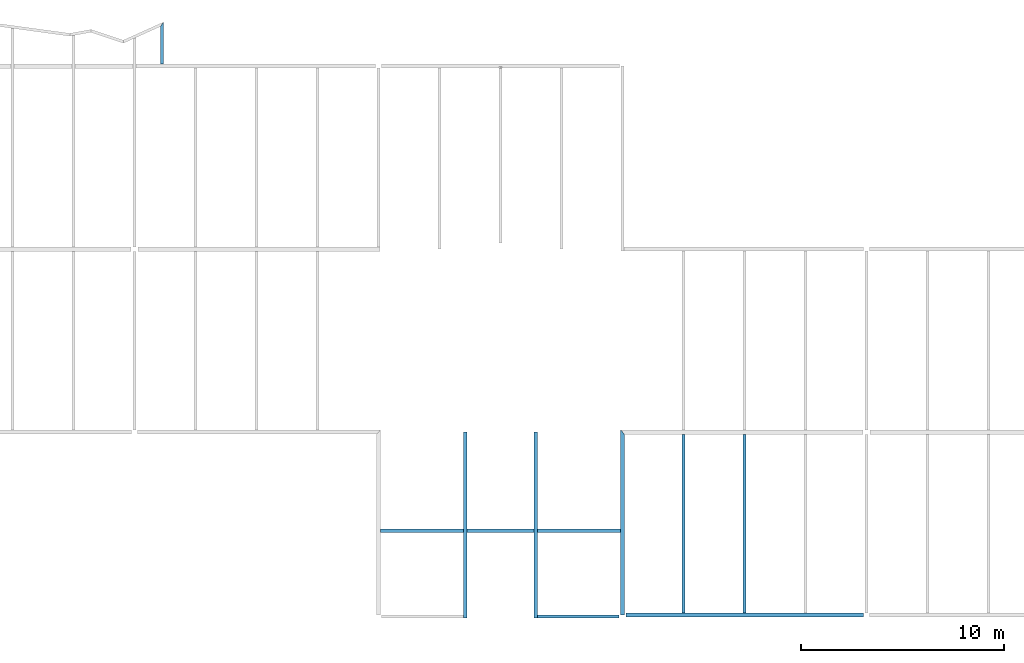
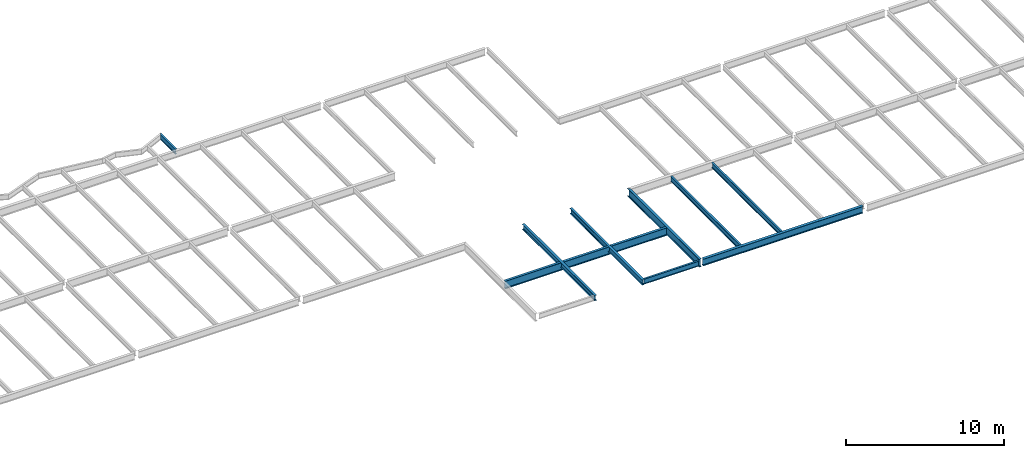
# One storey, part 10 of 21: 9 beams.
"""IFC2X3 building model written with IfcOpenShell, lengths in millimetres."""

from ifc_helpers import new_model, si_unit, origin, place, context, project, spatial, faceted_brep, material, element, save


model = new_model("IFC2X3")

# Units and contexts
context_of_model = context(None, 3, precision=1e-05, world=origin())
ifc_project = project(units=[si_unit("LENGTHUNIT", "METRE", prefix="MILLI")], contexts=[context_of_model])

# Building, storey
building = spatial("IfcBuilding", under=ifc_project, Name="Building", CompositionType="ELEMENT")
storey = spatial("IfcBuildingStorey", under=building, Name="FL3-FRM", CompositionType="ELEMENT")

# Beams
ifc_material_1 = material(Name="A992")
beam_1_placement = place(None, origin())
element("IfcBeam", 1, at=beam_1_placement, inside=storey, material=ifc_material_1, Name="B459", context=context_of_model, shape_type="Brep", body=[
    faceted_brep([(15070.0, 9104.5, 8474.0), (14930.0, 9104.5, 8474.0), (14930.0, 17885.5, 8474.0), (15070.0, 17885.5, 8474.0), (14930.0, 9104.5, 8482.8), (14930.0, 17885.5, 8482.8), (14986.6, 9104.5, 8482.8), (14986.6, 17885.5, 8482.8), (14989.2, 9104.5, 8483.15), (14989.2, 17885.5, 8483.15), (14991.7, 9104.5, 8484.17), (14991.7, 17885.5, 8484.17), (14993.8, 9104.5, 8485.79), (14993.8, 17885.5, 8485.79), (14995.4, 9104.5, 8487.9), (14995.4, 17885.5, 8487.9), (14996.5, 9104.5, 8490.36), (14996.5, 17885.5, 8490.36), (14996.8, 9104.5, 8493.0), (14996.8, 17885.5, 8493.0), (14996.8, 9104.5, 8854.0), (14996.8, 17885.5, 8854.0), (14996.5, 9104.5, 8856.64), (14996.5, 17885.5, 8856.64), (14995.4, 9104.5, 8859.1), (14995.4, 17885.5, 8859.1), (14993.8, 9104.5, 8861.21), (14993.8, 17885.5, 8861.21), (14991.7, 9104.5, 8862.83), (14991.7, 17885.5, 8862.83), (14989.2, 9104.5, 8863.85), (14989.2, 17885.5, 8863.85), (14986.6, 9104.5, 8864.2), (14986.6, 17885.5, 8864.2), (14930.0, 9104.5, 8864.2), (14930.0, 17885.5, 8864.2), (14930.0, 9104.5, 8873.0), (14930.0, 17885.5, 8873.0), (15070.0, 9104.5, 8873.0), (15070.0, 17885.5, 8873.0), (15070.0, 9104.5, 8864.2), (15070.0, 17885.5, 8864.2), (15013.4, 9104.5, 8864.2), (15013.4, 17885.5, 8864.2), (15010.8, 9104.5, 8863.85), (15010.8, 17885.5, 8863.85), (15008.3, 9104.5, 8862.83), (15008.3, 17885.5, 8862.83), (15006.2, 9104.5, 8861.21), (15006.2, 17885.5, 8861.21), (15004.6, 9104.5, 8859.1), (15004.6, 17885.5, 8859.1), (15003.5, 9104.5, 8856.64), (15003.5, 17885.5, 8856.64), (15003.2, 9104.5, 8854.0), (15003.2, 17885.5, 8854.0), (15003.2, 9104.5, 8493.0), (15003.2, 17885.5, 8493.0), (15003.5, 9104.5, 8490.36), (15003.5, 17885.5, 8490.36), (15004.6, 9104.5, 8487.9), (15004.6, 17885.5, 8487.9), (15006.2, 9104.5, 8485.79), (15006.2, 17885.5, 8485.79), (15008.3, 9104.5, 8484.17), (15008.3, 17885.5, 8484.17), (15010.8, 9104.5, 8483.15), (15010.8, 17885.5, 8483.15), (15013.4, 9104.5, 8482.8), (15013.4, 17885.5, 8482.8), (15070.0, 9104.5, 8482.8), (15070.0, 17885.5, 8482.8)], [[[0, 1, 2, 3]], [[1, 4, 5, 2]], [[4, 6, 7, 5]], [[6, 8, 9, 7]], [[8, 10, 11, 9]], [[10, 12, 13, 11]], [[12, 14, 15, 13]], [[14, 16, 17, 15]], [[16, 18, 19, 17]], [[18, 20, 21, 19]], [[20, 22, 23, 21]], [[22, 24, 25, 23]], [[24, 26, 27, 25]], [[26, 28, 29, 27]], [[28, 30, 31, 29]], [[30, 32, 33, 31]], [[32, 34, 35, 33]], [[34, 36, 37, 35]], [[36, 38, 39, 37]], [[38, 40, 41, 39]], [[40, 42, 43, 41]], [[42, 44, 45, 43]], [[44, 46, 47, 45]], [[46, 48, 49, 47]], [[48, 50, 51, 49]], [[50, 52, 53, 51]], [[52, 54, 55, 53]], [[54, 56, 57, 55]], [[56, 58, 59, 57]], [[58, 60, 61, 59]], [[60, 62, 63, 61]], [[62, 64, 65, 63]], [[64, 66, 67, 65]], [[66, 68, 69, 67]], [[68, 70, 71, 69]], [[70, 0, 3, 71]], [[0, 70, 68, 66, 64, 62, 60, 58, 56, 54, 52, 50, 48, 46, 44, 42, 40, 38, 36, 34, 32, 30, 28, 26, 24, 22, 20, 18, 16, 14, 12, 10, 8, 6, 4, 1]], [[3, 2, 5, 7, 9, 11, 13, 15, 17, 19, 21, 23, 25, 27, 29, 31, 33, 35, 37, 39, 41, 43, 45, 47, 49, 51, 53, 55, 57, 59, 61, 63, 65, 67, 69, 71]]]),
])
ifc_material_2 = material(Name="A992")
beam_2_placement = place(None, origin())
element("IfcBeam", 2, at=beam_2_placement, inside=storey, material=ifc_material_2, Name="B460", context=context_of_model, shape_type="Brep", body=[
    faceted_brep([(18070.0, 9104.5, 8474.0), (17930.0, 9104.5, 8474.0), (17930.0, 17885.5, 8474.0), (18070.0, 17885.5, 8474.0), (17930.0, 9104.5, 8482.8), (17930.0, 17885.5, 8482.8), (17986.6, 9104.5, 8482.8), (17986.6, 17885.5, 8482.8), (17989.2, 9104.5, 8483.15), (17989.2, 17885.5, 8483.15), (17991.7, 9104.5, 8484.17), (17991.7, 17885.5, 8484.17), (17993.8, 9104.5, 8485.79), (17993.8, 17885.5, 8485.79), (17995.4, 9104.5, 8487.9), (17995.4, 17885.5, 8487.9), (17996.5, 9104.5, 8490.36), (17996.5, 17885.5, 8490.36), (17996.8, 9104.5, 8493.0), (17996.8, 17885.5, 8493.0), (17996.8, 9104.5, 8854.0), (17996.8, 17885.5, 8854.0), (17996.5, 9104.5, 8856.64), (17996.5, 17885.5, 8856.64), (17995.4, 9104.5, 8859.1), (17995.4, 17885.5, 8859.1), (17993.8, 9104.5, 8861.21), (17993.8, 17885.5, 8861.21), (17991.7, 9104.5, 8862.83), (17991.7, 17885.5, 8862.83), (17989.2, 9104.5, 8863.85), (17989.2, 17885.5, 8863.85), (17986.6, 9104.5, 8864.2), (17986.6, 17885.5, 8864.2), (17930.0, 9104.5, 8864.2), (17930.0, 17885.5, 8864.2), (17930.0, 9104.5, 8873.0), (17930.0, 17885.5, 8873.0), (18070.0, 9104.5, 8873.0), (18070.0, 17885.5, 8873.0), (18070.0, 9104.5, 8864.2), (18070.0, 17885.5, 8864.2), (18013.4, 9104.5, 8864.2), (18013.4, 17885.5, 8864.2), (18010.8, 9104.5, 8863.85), (18010.8, 17885.5, 8863.85), (18008.3, 9104.5, 8862.83), (18008.3, 17885.5, 8862.83), (18006.2, 9104.5, 8861.21), (18006.2, 17885.5, 8861.21), (18004.6, 9104.5, 8859.1), (18004.6, 17885.5, 8859.1), (18003.5, 9104.5, 8856.64), (18003.5, 17885.5, 8856.64), (18003.2, 9104.5, 8854.0), (18003.2, 17885.5, 8854.0), (18003.2, 9104.5, 8493.0), (18003.2, 17885.5, 8493.0), (18003.5, 9104.5, 8490.36), (18003.5, 17885.5, 8490.36), (18004.6, 9104.5, 8487.9), (18004.6, 17885.5, 8487.9), (18006.2, 9104.5, 8485.79), (18006.2, 17885.5, 8485.79), (18008.3, 9104.5, 8484.17), (18008.3, 17885.5, 8484.17), (18010.8, 9104.5, 8483.15), (18010.8, 17885.5, 8483.15), (18013.4, 9104.5, 8482.8), (18013.4, 17885.5, 8482.8), (18070.0, 9104.5, 8482.8), (18070.0, 17885.5, 8482.8)], [[[0, 1, 2, 3]], [[1, 4, 5, 2]], [[4, 6, 7, 5]], [[6, 8, 9, 7]], [[8, 10, 11, 9]], [[10, 12, 13, 11]], [[12, 14, 15, 13]], [[14, 16, 17, 15]], [[16, 18, 19, 17]], [[18, 20, 21, 19]], [[20, 22, 23, 21]], [[22, 24, 25, 23]], [[24, 26, 27, 25]], [[26, 28, 29, 27]], [[28, 30, 31, 29]], [[30, 32, 33, 31]], [[32, 34, 35, 33]], [[34, 36, 37, 35]], [[36, 38, 39, 37]], [[38, 40, 41, 39]], [[40, 42, 43, 41]], [[42, 44, 45, 43]], [[44, 46, 47, 45]], [[46, 48, 49, 47]], [[48, 50, 51, 49]], [[50, 52, 53, 51]], [[52, 54, 55, 53]], [[54, 56, 57, 55]], [[56, 58, 59, 57]], [[58, 60, 61, 59]], [[60, 62, 63, 61]], [[62, 64, 65, 63]], [[64, 66, 67, 65]], [[66, 68, 69, 67]], [[68, 70, 71, 69]], [[70, 0, 3, 71]], [[0, 70, 68, 66, 64, 62, 60, 58, 56, 54, 52, 50, 48, 46, 44, 42, 40, 38, 36, 34, 32, 30, 28, 26, 24, 22, 20, 18, 16, 14, 12, 10, 8, 6, 4, 1]], [[3, 2, 5, 7, 9, 11, 13, 15, 17, 19, 21, 23, 25, 27, 29, 31, 33, 35, 37, 39, 41, 43, 45, 47, 49, 51, 53, 55, 57, 59, 61, 63, 65, 67, 69, 71]]]),
])
ifc_material_3 = material(Name="A992")
beam_3_placement = place(None, origin())
element("IfcBeam", 3, at=beam_3_placement, inside=storey, material=ifc_material_3, Name="B462", context=context_of_model, shape_type="Brep", body=[
    faceted_brep([(12089.5, 9009.0, 8270.0), (11910.5, 9009.0, 8270.0), (11910.5, 18114.5, 8270.0), (12089.5, 17885.5, 8270.0), (11910.5, 9009.0, 8285.0), (11910.5, 18114.5, 8285.0), (11979.4, 9009.0, 8285.0), (11979.4, 18026.4, 8285.0), (11981.7, 9009.0, 8285.19), (11981.7, 18023.4, 8285.14), (11984.0, 9009.0, 8285.74), (11984.0, 18020.4, 8285.71), (11986.3, 9009.0, 8286.66), (11986.2, 18017.7, 8286.64), (11988.3, 9009.0, 8287.9), (11988.2, 18015.1, 8287.82), (11990.1, 9009.0, 8289.45), (11990.1, 18012.7, 8289.45), (11991.6, 9009.0, 8291.27), (11991.6, 18010.8, 8291.17), (11992.9, 9009.0, 8293.3), (11992.9, 18009.1, 8293.2), (11993.8, 9009.0, 8295.5), (11993.8, 18008.0, 8295.47), (11994.4, 9009.0, 8297.82), (11994.3, 18007.3, 8297.77), (11994.6, 9009.0, 8300.2), (11994.6, 18007.0, 8300.2), (11994.6, 9009.0, 8842.8), (11994.6, 18007.0, 8842.8), (11994.4, 9009.0, 8845.18), (11994.3, 18007.3, 8845.23), (11993.8, 9009.0, 8847.5), (11993.8, 18008.0, 8847.53), (11992.9, 9009.0, 8849.7), (11992.9, 18009.1, 8849.8), (11991.6, 9009.0, 8851.73), (11991.6, 18010.8, 8851.83), (11990.1, 9009.0, 8853.55), (11990.1, 18012.7, 8853.55), (11988.3, 9009.0, 8855.1), (11988.2, 18015.1, 8855.18), (11986.3, 9009.0, 8856.34), (11986.2, 18017.7, 8856.36), (11984.0, 9009.0, 8857.26), (11984.0, 18020.4, 8857.29), (11981.7, 9009.0, 8857.81), (11981.7, 18023.4, 8857.86), (11979.4, 9009.0, 8858.0), (11979.4, 18026.4, 8858.0), (11910.5, 9009.0, 8858.0), (11910.5, 18114.5, 8858.0), (11910.5, 9009.0, 8873.0), (11910.5, 18114.5, 8873.0), (12089.5, 9009.0, 8873.0), (12089.5, 17885.5, 8873.0), (12089.5, 9009.0, 8858.0), (12089.5, 17885.5, 8858.0), (12020.6, 9009.0, 8858.0), (12020.6, 17973.6, 8858.0), (12018.3, 9009.0, 8857.81), (12018.3, 17976.6, 8857.86), (12016.0, 9009.0, 8857.26), (12016.0, 17979.6, 8857.29), (12013.7, 9009.0, 8856.34), (12013.8, 17982.3, 8856.36), (12011.7, 9009.0, 8855.1), (12011.8, 17984.9, 8855.18), (12009.9, 9009.0, 8853.55), (12009.9, 17987.3, 8853.55), (12008.4, 9009.0, 8851.73), (12008.4, 17989.2, 8851.83), (12007.1, 9009.0, 8849.7), (12007.1, 17990.9, 8849.8), (12006.2, 9009.0, 8847.5), (12006.2, 17992.0, 8847.53), (12005.6, 9009.0, 8845.18), (12005.7, 17992.7, 8845.23), (12005.4, 9009.0, 8842.8), (12005.4, 17993.0, 8842.8), (12005.4, 9009.0, 8300.2), (12005.4, 17993.0, 8300.2), (12005.6, 9009.0, 8297.82), (12005.7, 17992.7, 8297.77), (12006.2, 9009.0, 8295.5), (12006.2, 17992.0, 8295.47), (12007.1, 9009.0, 8293.3), (12007.1, 17990.9, 8293.2), (12008.4, 9009.0, 8291.27), (12008.4, 17989.2, 8291.17), (12009.9, 9009.0, 8289.45), (12009.9, 17987.3, 8289.45), (12011.7, 9009.0, 8287.9), (12011.8, 17984.9, 8287.82), (12013.7, 9009.0, 8286.66), (12013.8, 17982.3, 8286.64), (12016.0, 9009.0, 8285.74), (12016.0, 17979.6, 8285.71), (12018.3, 9009.0, 8285.19), (12018.3, 17976.6, 8285.14), (12020.6, 9009.0, 8285.0), (12020.6, 17973.6, 8285.0), (12089.5, 9009.0, 8285.0), (12089.5, 17885.5, 8285.0)], [[[0, 1, 2, 3]], [[1, 4, 5, 2]], [[4, 6, 7, 5]], [[6, 8, 9, 7]], [[8, 10, 11, 9]], [[10, 12, 13, 11]], [[12, 14, 15, 13]], [[14, 16, 17, 15]], [[16, 18, 19, 17]], [[18, 20, 21, 19]], [[20, 22, 23, 21]], [[22, 24, 25, 23]], [[24, 26, 27, 25]], [[26, 28, 29, 27]], [[28, 30, 31, 29]], [[30, 32, 33, 31]], [[32, 34, 35, 33]], [[34, 36, 37, 35]], [[36, 38, 39, 37]], [[38, 40, 41, 39]], [[40, 42, 43, 41]], [[42, 44, 45, 43]], [[44, 46, 47, 45]], [[46, 48, 49, 47]], [[48, 50, 51, 49]], [[50, 52, 53, 51]], [[52, 54, 55, 53]], [[54, 56, 57, 55]], [[56, 58, 59, 57]], [[58, 60, 61, 59]], [[60, 62, 63, 61]], [[62, 64, 65, 63]], [[64, 66, 67, 65]], [[66, 68, 69, 67]], [[68, 70, 71, 69]], [[70, 72, 73, 71]], [[72, 74, 75, 73]], [[74, 76, 77, 75]], [[76, 78, 79, 77]], [[78, 80, 81, 79]], [[80, 82, 83, 81]], [[82, 84, 85, 83]], [[84, 86, 87, 85]], [[86, 88, 89, 87]], [[88, 90, 91, 89]], [[90, 92, 93, 91]], [[92, 94, 95, 93]], [[94, 96, 97, 95]], [[96, 98, 99, 97]], [[98, 100, 101, 99]], [[100, 102, 103, 101]], [[102, 0, 3, 103]], [[0, 102, 100, 98, 96, 94, 92, 90, 88, 86, 84, 82, 80, 78, 76, 74, 72, 70, 68, 66, 64, 62, 60, 58, 56, 54, 52, 50, 48, 46, 44, 42, 40, 38, 36, 34, 32, 30, 28, 26, 24, 22, 20, 18, 16, 14, 12, 10, 8, 6, 4, 1]], [[3, 2, 5, 7, 9, 11, 13, 15, 17, 19, 21, 23, 25, 27, 29, 31, 33, 35, 37, 39, 41, 43, 45, 47, 49, 51, 53, 55, 57, 59, 61, 63, 65, 67, 69, 71, 73, 75, 77, 79, 81, 83, 85, 87, 89, 91, 93, 95, 97, 99, 101, 103]]]),
])
ifc_material_4 = material(Name="A992")
beam_4_placement = place(None, origin())
element("IfcBeam", 4, at=beam_4_placement, inside=storey, material=ifc_material_4, Name="Column474", context=context_of_model, shape_type="Brep", body=[
    faceted_brep([(12166.5, 8895.5, 8345.0), (12166.5, 9104.5, 8345.0), (23846.0, 9104.5, 8345.0), (23846.0, 8895.5, 8345.0), (12166.5, 9104.5, 8358.3), (23846.0, 9104.5, 8358.3), (12166.5, 9017.45, 8358.3), (23846.0, 9017.45, 8358.3), (12166.5, 9014.16, 8358.73), (23846.0, 9014.16, 8358.73), (12166.5, 9011.1, 8360.0), (23846.0, 9011.1, 8360.0), (12166.5, 9008.47, 8362.02), (23846.0, 9008.47, 8362.02), (12166.5, 9006.45, 8364.65), (23846.0, 9006.45, 8364.65), (12166.5, 9005.18, 8367.71), (23846.0, 9005.18, 8367.71), (12166.5, 9004.75, 8371.0), (23846.0, 9004.75, 8371.0), (12166.5, 9004.75, 8847.0), (23846.0, 9004.75, 8847.0), (12166.5, 9005.18, 8850.29), (23846.0, 9005.18, 8850.29), (12166.5, 9006.45, 8853.35), (23846.0, 9006.45, 8853.35), (12166.5, 9008.47, 8855.98), (23846.0, 9008.47, 8855.98), (12166.5, 9011.1, 8858.0), (23846.0, 9011.1, 8858.0), (12166.5, 9014.16, 8859.27), (23846.0, 9014.16, 8859.27), (12166.5, 9017.45, 8859.7), (23846.0, 9017.45, 8859.7), (12166.5, 9104.5, 8859.7), (23846.0, 9104.5, 8859.7), (12166.5, 9104.5, 8873.0), (23846.0, 9104.5, 8873.0), (12166.5, 8895.5, 8873.0), (23846.0, 8895.5, 8873.0), (12166.5, 8895.5, 8859.7), (23846.0, 8895.5, 8859.7), (12166.5, 8982.55, 8859.7), (23846.0, 8982.55, 8859.7), (12166.5, 8985.84, 8859.27), (23846.0, 8985.84, 8859.27), (12166.5, 8988.9, 8858.0), (23846.0, 8988.9, 8858.0), (12166.5, 8991.53, 8855.98), (23846.0, 8991.53, 8855.98), (12166.5, 8993.55, 8853.35), (23846.0, 8993.55, 8853.35), (12166.5, 8994.82, 8850.29), (23846.0, 8994.82, 8850.29), (12166.5, 8995.25, 8847.0), (23846.0, 8995.25, 8847.0), (12166.5, 8995.25, 8371.0), (23846.0, 8995.25, 8371.0), (12166.5, 8994.82, 8367.71), (23846.0, 8994.82, 8367.71), (12166.5, 8993.55, 8364.65), (23846.0, 8993.55, 8364.65), (12166.5, 8991.53, 8362.02), (23846.0, 8991.53, 8362.02), (12166.5, 8988.9, 8360.0), (23846.0, 8988.9, 8360.0), (12166.5, 8985.84, 8358.73), (23846.0, 8985.84, 8358.73), (12166.5, 8982.55, 8358.3), (23846.0, 8982.55, 8358.3), (12166.5, 8895.5, 8358.3), (23846.0, 8895.5, 8358.3)], [[[0, 1, 2, 3]], [[1, 4, 5, 2]], [[4, 6, 7, 5]], [[6, 8, 9, 7]], [[8, 10, 11, 9]], [[10, 12, 13, 11]], [[12, 14, 15, 13]], [[14, 16, 17, 15]], [[16, 18, 19, 17]], [[18, 20, 21, 19]], [[20, 22, 23, 21]], [[22, 24, 25, 23]], [[24, 26, 27, 25]], [[26, 28, 29, 27]], [[28, 30, 31, 29]], [[30, 32, 33, 31]], [[32, 34, 35, 33]], [[34, 36, 37, 35]], [[36, 38, 39, 37]], [[38, 40, 41, 39]], [[40, 42, 43, 41]], [[42, 44, 45, 43]], [[44, 46, 47, 45]], [[46, 48, 49, 47]], [[48, 50, 51, 49]], [[50, 52, 53, 51]], [[52, 54, 55, 53]], [[54, 56, 57, 55]], [[56, 58, 59, 57]], [[58, 60, 61, 59]], [[60, 62, 63, 61]], [[62, 64, 65, 63]], [[64, 66, 67, 65]], [[66, 68, 69, 67]], [[68, 70, 71, 69]], [[70, 0, 3, 71]], [[0, 70, 68, 66, 64, 62, 60, 58, 56, 54, 52, 50, 48, 46, 44, 42, 40, 38, 36, 34, 32, 30, 28, 26, 24, 22, 20, 18, 16, 14, 12, 10, 8, 6, 4, 1]], [[3, 2, 5, 7, 9, 11, 13, 15, 17, 19, 21, 23, 25, 27, 29, 31, 33, 35, 37, 39, 41, 43, 45, 47, 49, 51, 53, 55, 57, 59, 61, 63, 65, 67, 69, 71]]]),
])
ifc_material_5 = material(Name="A992")
beam_5_placement = place(None, origin())
element("IfcBeam", 5, at=beam_5_placement, inside=storey, material=ifc_material_5, Name="B595", context=context_of_model, shape_type="Brep", body=[
    faceted_brep([(4351.0, 8851.2, 8466.0), (4173.0, 8851.2, 8466.0), (4173.0, 18000.0, 8466.0), (4351.0, 18000.0, 8466.0), (4173.0, 8851.2, 8478.8), (4173.0, 18000.0, 8478.8), (4247.95, 8851.2, 8478.8), (4247.95, 18000.0, 8478.8), (4250.59, 8851.2, 8479.15), (4250.59, 18000.0, 8479.15), (4253.05, 8851.2, 8480.17), (4253.05, 18000.0, 8480.17), (4255.16, 8851.2, 8481.79), (4255.16, 18000.0, 8481.79), (4256.78, 8851.2, 8483.9), (4256.78, 18000.0, 8483.9), (4257.8, 8851.2, 8486.36), (4257.8, 18000.0, 8486.36), (4258.15, 8851.2, 8489.0), (4258.15, 18000.0, 8489.0), (4258.15, 8851.2, 8850.0), (4258.15, 18000.0, 8850.0), (4257.8, 8851.2, 8852.64), (4257.8, 18000.0, 8852.64), (4256.78, 8851.2, 8855.1), (4256.78, 18000.0, 8855.1), (4255.16, 8851.2, 8857.21), (4255.16, 18000.0, 8857.21), (4253.05, 8851.2, 8858.83), (4253.05, 18000.0, 8858.83), (4250.59, 8851.2, 8859.85), (4250.59, 18000.0, 8859.85), (4247.95, 8851.2, 8860.2), (4247.95, 18000.0, 8860.2), (4173.0, 8851.2, 8860.2), (4173.0, 18000.0, 8860.2), (4173.0, 8851.2, 8873.0), (4173.0, 18000.0, 8873.0), (4351.0, 8851.2, 8873.0), (4351.0, 18000.0, 8873.0), (4351.0, 8851.2, 8860.2), (4351.0, 18000.0, 8860.2), (4276.05, 8851.2, 8860.2), (4276.05, 18000.0, 8860.2), (4273.41, 8851.2, 8859.85), (4273.41, 18000.0, 8859.85), (4270.95, 8851.2, 8858.83), (4270.95, 18000.0, 8858.83), (4268.84, 8851.2, 8857.21), (4268.84, 18000.0, 8857.21), (4267.22, 8851.2, 8855.1), (4267.22, 18000.0, 8855.1), (4266.2, 8851.2, 8852.64), (4266.2, 18000.0, 8852.64), (4265.85, 8851.2, 8850.0), (4265.85, 18000.0, 8850.0), (4265.85, 8851.2, 8489.0), (4265.85, 18000.0, 8489.0), (4266.2, 8851.2, 8486.36), (4266.2, 18000.0, 8486.36), (4267.22, 8851.2, 8483.9), (4267.22, 18000.0, 8483.9), (4268.84, 8851.2, 8481.79), (4268.84, 18000.0, 8481.79), (4270.95, 8851.2, 8480.17), (4270.95, 18000.0, 8480.17), (4273.41, 8851.2, 8479.15), (4273.41, 18000.0, 8479.15), (4276.05, 8851.2, 8478.8), (4276.05, 18000.0, 8478.8), (4351.0, 8851.2, 8478.8), (4351.0, 18000.0, 8478.8)], [[[0, 1, 2, 3]], [[1, 4, 5, 2]], [[4, 6, 7, 5]], [[6, 8, 9, 7]], [[8, 10, 11, 9]], [[10, 12, 13, 11]], [[12, 14, 15, 13]], [[14, 16, 17, 15]], [[16, 18, 19, 17]], [[18, 20, 21, 19]], [[20, 22, 23, 21]], [[22, 24, 25, 23]], [[24, 26, 27, 25]], [[26, 28, 29, 27]], [[28, 30, 31, 29]], [[30, 32, 33, 31]], [[32, 34, 35, 33]], [[34, 36, 37, 35]], [[36, 38, 39, 37]], [[38, 40, 41, 39]], [[40, 42, 43, 41]], [[42, 44, 45, 43]], [[44, 46, 47, 45]], [[46, 48, 49, 47]], [[48, 50, 51, 49]], [[50, 52, 53, 51]], [[52, 54, 55, 53]], [[54, 56, 57, 55]], [[56, 58, 59, 57]], [[58, 60, 61, 59]], [[60, 62, 63, 61]], [[62, 64, 65, 63]], [[64, 66, 67, 65]], [[66, 68, 69, 67]], [[68, 70, 71, 69]], [[70, 0, 3, 71]], [[0, 70, 68, 66, 64, 62, 60, 58, 56, 54, 52, 50, 48, 46, 44, 42, 40, 38, 36, 34, 32, 30, 28, 26, 24, 22, 20, 18, 16, 14, 12, 10, 8, 6, 4, 1]], [[3, 2, 5, 7, 9, 11, 13, 15, 17, 19, 21, 23, 25, 27, 29, 31, 33, 35, 37, 39, 41, 43, 45, 47, 49, 51, 53, 55, 57, 59, 61, 63, 65, 67, 69, 71]]]),
])
ifc_material_6 = material(Name="A992")
beam_6_placement = place(None, origin())
element("IfcBeam", 6, at=beam_6_placement, inside=storey, material=ifc_material_6, Name="B596", context=context_of_model, shape_type="Brep", body=[
    faceted_brep([(7827.0, 8851.2, 8466.0), (7649.0, 8851.2, 8466.0), (7649.0, 18000.0, 8466.0), (7827.0, 18000.0, 8466.0), (7649.0, 8851.2, 8478.8), (7649.0, 18000.0, 8478.8), (7723.95, 8851.2, 8478.8), (7723.95, 18000.0, 8478.8), (7726.59, 8851.2, 8479.15), (7726.59, 18000.0, 8479.15), (7729.05, 8851.2, 8480.17), (7729.05, 18000.0, 8480.17), (7731.16, 8851.2, 8481.79), (7731.16, 18000.0, 8481.79), (7732.78, 8851.2, 8483.9), (7732.78, 18000.0, 8483.9), (7733.8, 8851.2, 8486.36), (7733.8, 18000.0, 8486.36), (7734.15, 8851.2, 8489.0), (7734.15, 18000.0, 8489.0), (7734.15, 8851.2, 8850.0), (7734.15, 18000.0, 8850.0), (7733.8, 8851.2, 8852.64), (7733.8, 18000.0, 8852.64), (7732.78, 8851.2, 8855.1), (7732.78, 18000.0, 8855.1), (7731.16, 8851.2, 8857.21), (7731.16, 18000.0, 8857.21), (7729.05, 8851.2, 8858.83), (7729.05, 18000.0, 8858.83), (7726.59, 8851.2, 8859.85), (7726.59, 18000.0, 8859.85), (7723.95, 8851.2, 8860.2), (7723.95, 18000.0, 8860.2), (7649.0, 8851.2, 8860.2), (7649.0, 18000.0, 8860.2), (7649.0, 8851.2, 8873.0), (7649.0, 18000.0, 8873.0), (7827.0, 8851.2, 8873.0), (7827.0, 18000.0, 8873.0), (7827.0, 8851.2, 8860.2), (7827.0, 18000.0, 8860.2), (7752.05, 8851.2, 8860.2), (7752.05, 18000.0, 8860.2), (7749.41, 8851.2, 8859.85), (7749.41, 18000.0, 8859.85), (7746.95, 8851.2, 8858.83), (7746.95, 18000.0, 8858.83), (7744.84, 8851.2, 8857.21), (7744.84, 18000.0, 8857.21), (7743.22, 8851.2, 8855.1), (7743.22, 18000.0, 8855.1), (7742.2, 8851.2, 8852.64), (7742.2, 18000.0, 8852.64), (7741.85, 8851.2, 8850.0), (7741.85, 18000.0, 8850.0), (7741.85, 8851.2, 8489.0), (7741.85, 18000.0, 8489.0), (7742.2, 8851.2, 8486.36), (7742.2, 18000.0, 8486.36), (7743.22, 8851.2, 8483.9), (7743.22, 18000.0, 8483.9), (7744.84, 8851.2, 8481.79), (7744.84, 18000.0, 8481.79), (7746.95, 8851.2, 8480.17), (7746.95, 18000.0, 8480.17), (7749.41, 8851.2, 8479.15), (7749.41, 18000.0, 8479.15), (7752.05, 8851.2, 8478.8), (7752.05, 18000.0, 8478.8), (7827.0, 8851.2, 8478.8), (7827.0, 18000.0, 8478.8)], [[[0, 1, 2, 3]], [[1, 4, 5, 2]], [[4, 6, 7, 5]], [[6, 8, 9, 7]], [[8, 10, 11, 9]], [[10, 12, 13, 11]], [[12, 14, 15, 13]], [[14, 16, 17, 15]], [[16, 18, 19, 17]], [[18, 20, 21, 19]], [[20, 22, 23, 21]], [[22, 24, 25, 23]], [[24, 26, 27, 25]], [[26, 28, 29, 27]], [[28, 30, 31, 29]], [[30, 32, 33, 31]], [[32, 34, 35, 33]], [[34, 36, 37, 35]], [[36, 38, 39, 37]], [[38, 40, 41, 39]], [[40, 42, 43, 41]], [[42, 44, 45, 43]], [[44, 46, 47, 45]], [[46, 48, 49, 47]], [[48, 50, 51, 49]], [[50, 52, 53, 51]], [[52, 54, 55, 53]], [[54, 56, 57, 55]], [[56, 58, 59, 57]], [[58, 60, 61, 59]], [[60, 62, 63, 61]], [[62, 64, 65, 63]], [[64, 66, 67, 65]], [[66, 68, 69, 67]], [[68, 70, 71, 69]], [[70, 0, 3, 71]], [[0, 70, 68, 66, 64, 62, 60, 58, 56, 54, 52, 50, 48, 46, 44, 42, 40, 38, 36, 34, 32, 30, 28, 26, 24, 22, 20, 18, 16, 14, 12, 10, 8, 6, 4, 1]], [[3, 2, 5, 7, 9, 11, 13, 15, 17, 19, 21, 23, 25, 27, 29, 31, 33, 35, 37, 39, 41, 43, 45, 47, 49, 51, 53, 55, 57, 59, 61, 63, 65, 67, 69, 71]]]),
])
ifc_material_7 = material(Name="A992")
beam_7_placement = place(None, origin())
element("IfcBeam", 7, at=beam_7_placement, inside=storey, material=ifc_material_7, Name="B1065", context=context_of_model, shape_type="Brep", body=[
    faceted_brep([(-10720.0, 37949.8, 8474.0), (-10580.0, 38166.6, 8474.0), (-10580.0, 36104.5, 8474.0), (-10720.0, 36104.5, 8474.0), (-10580.0, 38166.6, 8482.8), (-10580.0, 36104.5, 8482.8), (-10636.6, 38079.0, 8482.8), (-10636.6, 36104.5, 8482.8), (-10638.0, 38076.8, 8482.87), (-10638.1, 36104.5, 8482.9), (-10639.5, 38074.6, 8483.18), (-10639.5, 36104.5, 8483.21), (-10640.8, 38072.4, 8483.72), (-10640.8, 36104.5, 8483.72), (-10642.1, 38070.5, 8484.36), (-10642.1, 36104.5, 8484.42), (-10643.2, 38068.7, 8485.23), (-10643.3, 36104.5, 8485.29), (-10644.3, 38067.1, 8486.28), (-10644.3, 36104.5, 8486.32), (-10645.1, 38065.8, 8487.37), (-10645.2, 36104.5, 8487.49), (-10645.9, 38064.6, 8488.71), (-10645.9, 36104.5, 8488.76), (-10646.3, 38063.9, 8490.09), (-10646.4, 36104.5, 8490.13), (-10646.6, 38063.4, 8491.51), (-10646.7, 36104.5, 8491.55), (-10646.8, 38063.2, 8493.0), (-10646.8, 36104.5, 8493.0), (-10646.8, 38063.2, 8854.0), (-10646.8, 36104.5, 8854.0), (-10646.6, 38063.4, 8855.49), (-10646.7, 36104.5, 8855.45), (-10646.3, 38063.9, 8856.91), (-10646.4, 36104.5, 8856.87), (-10645.9, 38064.6, 8858.29), (-10645.9, 36104.5, 8858.24), (-10645.1, 38065.8, 8859.63), (-10645.2, 36104.5, 8859.51), (-10644.3, 38067.1, 8860.72), (-10644.3, 36104.5, 8860.68), (-10643.2, 38068.7, 8861.77), (-10643.3, 36104.5, 8861.71), (-10642.1, 38070.5, 8862.64), (-10642.1, 36104.5, 8862.58), (-10640.8, 38072.4, 8863.28), (-10640.8, 36104.5, 8863.28), (-10639.5, 38074.6, 8863.82), (-10639.5, 36104.5, 8863.79), (-10638.0, 38076.8, 8864.13), (-10638.1, 36104.5, 8864.1), (-10636.6, 38079.0, 8864.2), (-10636.6, 36104.5, 8864.2), (-10580.0, 38166.6, 8864.2), (-10580.0, 36104.5, 8864.2), (-10580.0, 38166.6, 8873.0), (-10580.0, 36104.5, 8873.0), (-10720.0, 37949.8, 8873.0), (-10720.0, 36104.5, 8873.0), (-10720.0, 37949.8, 8864.2), (-10720.0, 36104.5, 8864.2), (-10663.4, 38037.5, 8864.2), (-10663.4, 36104.5, 8864.2), (-10662.0, 38039.7, 8864.13), (-10661.9, 36104.5, 8864.1), (-10660.5, 38041.9, 8863.82), (-10660.5, 36104.5, 8863.79), (-10659.2, 38044.0, 8863.28), (-10659.2, 36104.5, 8863.28), (-10657.9, 38045.9, 8862.64), (-10657.9, 36104.5, 8862.58), (-10656.8, 38047.8, 8861.77), (-10656.7, 36104.5, 8861.71), (-10655.7, 38049.3, 8860.72), (-10655.7, 36104.5, 8860.68), (-10654.9, 38050.7, 8859.63), (-10654.8, 36104.5, 8859.51), (-10654.1, 38051.8, 8858.29), (-10654.1, 36104.5, 8858.24), (-10653.7, 38052.5, 8856.91), (-10653.6, 36104.5, 8856.87), (-10653.4, 38053.0, 8855.49), (-10653.3, 36104.5, 8855.45), (-10653.2, 38053.3, 8854.0), (-10653.2, 36104.5, 8854.0), (-10653.2, 38053.3, 8493.0), (-10653.2, 36104.5, 8493.0), (-10653.4, 38053.0, 8491.51), (-10653.3, 36104.5, 8491.55), (-10653.7, 38052.5, 8490.09), (-10653.6, 36104.5, 8490.13), (-10654.1, 38051.8, 8488.71), (-10654.1, 36104.5, 8488.76), (-10654.9, 38050.7, 8487.37), (-10654.8, 36104.5, 8487.49), (-10655.7, 38049.3, 8486.28), (-10655.7, 36104.5, 8486.32), (-10656.8, 38047.8, 8485.23), (-10656.7, 36104.5, 8485.29), (-10657.9, 38045.9, 8484.36), (-10657.9, 36104.5, 8484.42), (-10659.2, 38044.0, 8483.72), (-10659.2, 36104.5, 8483.72), (-10660.5, 38041.9, 8483.18), (-10660.5, 36104.5, 8483.21), (-10662.0, 38039.7, 8482.87), (-10661.9, 36104.5, 8482.9), (-10663.4, 38037.5, 8482.8), (-10663.4, 36104.5, 8482.8), (-10720.0, 37949.8, 8482.8), (-10720.0, 36104.5, 8482.8)], [[[0, 1, 2, 3]], [[1, 4, 5, 2]], [[4, 6, 7, 5]], [[6, 8, 9, 7]], [[8, 10, 11, 9]], [[10, 12, 13, 11]], [[12, 14, 15, 13]], [[14, 16, 17, 15]], [[16, 18, 19, 17]], [[18, 20, 21, 19]], [[20, 22, 23, 21]], [[22, 24, 25, 23]], [[24, 26, 27, 25]], [[26, 28, 29, 27]], [[28, 30, 31, 29]], [[30, 32, 33, 31]], [[32, 34, 35, 33]], [[34, 36, 37, 35]], [[36, 38, 39, 37]], [[38, 40, 41, 39]], [[40, 42, 43, 41]], [[42, 44, 45, 43]], [[44, 46, 47, 45]], [[46, 48, 49, 47]], [[48, 50, 51, 49]], [[50, 52, 53, 51]], [[52, 54, 55, 53]], [[54, 56, 57, 55]], [[56, 58, 59, 57]], [[58, 60, 61, 59]], [[60, 62, 63, 61]], [[62, 64, 65, 63]], [[64, 66, 67, 65]], [[66, 68, 69, 67]], [[68, 70, 71, 69]], [[70, 72, 73, 71]], [[72, 74, 75, 73]], [[74, 76, 77, 75]], [[76, 78, 79, 77]], [[78, 80, 81, 79]], [[80, 82, 83, 81]], [[82, 84, 85, 83]], [[84, 86, 87, 85]], [[86, 88, 89, 87]], [[88, 90, 91, 89]], [[90, 92, 93, 91]], [[92, 94, 95, 93]], [[94, 96, 97, 95]], [[96, 98, 99, 97]], [[98, 100, 101, 99]], [[100, 102, 103, 101]], [[102, 104, 105, 103]], [[104, 106, 107, 105]], [[106, 108, 109, 107]], [[108, 110, 111, 109]], [[110, 0, 3, 111]], [[0, 110, 108, 106, 104, 102, 100, 98, 96, 94, 92, 90, 88, 86, 84, 82, 80, 78, 76, 74, 72, 70, 68, 66, 64, 62, 60, 58, 56, 54, 52, 50, 48, 46, 44, 42, 40, 38, 36, 34, 32, 30, 28, 26, 24, 22, 20, 18, 16, 14, 12, 10, 8, 6, 4, 1]], [[3, 2, 5, 7, 9, 11, 13, 15, 17, 19, 21, 23, 25, 27, 29, 31, 33, 35, 37, 39, 41, 43, 45, 47, 49, 51, 53, 55, 57, 59, 61, 63, 65, 67, 69, 71, 73, 75, 77, 79, 81, 83, 85, 87, 89, 91, 93, 95, 97, 99, 101, 103, 105, 107, 109, 111]]]),
])
ifc_material_8 = material(Name="A992")
beam_8_placement = place(None, origin())
element("IfcBeam", 8, at=beam_8_placement, inside=storey, material=ifc_material_8, Name="B1189", context=context_of_model, shape_type="Brep", body=[
    faceted_brep([(89.5, 13060.2, 8270.0), (89.5, 13239.2, 8270.0), (11910.5, 13239.2, 8270.0), (11910.5, 13060.2, 8270.0), (89.5, 13239.2, 8285.0), (11910.5, 13239.2, 8285.0), (89.5, 13170.3, 8285.0), (11910.5, 13170.3, 8285.0), (89.5, 13166.4, 8285.52), (11910.5, 13166.4, 8285.52), (89.5, 13162.7, 8287.04), (11910.5, 13162.7, 8287.04), (89.5, 13159.6, 8289.45), (11910.5, 13159.6, 8289.45), (89.5, 13157.1, 8292.6), (11910.5, 13157.1, 8292.6), (89.5, 13155.6, 8296.27), (11910.5, 13155.6, 8296.27), (89.5, 13155.1, 8300.2), (11910.5, 13155.1, 8300.2), (89.5, 13155.1, 8842.8), (11910.5, 13155.1, 8842.8), (89.5, 13155.6, 8846.73), (11910.5, 13155.6, 8846.73), (89.5, 13157.1, 8850.4), (11910.5, 13157.1, 8850.4), (89.5, 13159.6, 8853.55), (11910.5, 13159.6, 8853.55), (89.5, 13162.7, 8855.96), (11910.5, 13162.7, 8855.96), (89.5, 13166.4, 8857.48), (11910.5, 13166.4, 8857.48), (89.5, 13170.3, 8858.0), (11910.5, 13170.3, 8858.0), (89.5, 13239.2, 8858.0), (11910.5, 13239.2, 8858.0), (89.5, 13239.2, 8873.0), (11910.5, 13239.2, 8873.0), (89.5, 13060.2, 8873.0), (11910.5, 13060.2, 8873.0), (89.5, 13060.2, 8858.0), (11910.5, 13060.2, 8858.0), (89.5, 13129.0, 8858.0), (11910.5, 13129.0, 8858.0), (89.5, 13132.9, 8857.48), (11910.5, 13132.9, 8857.48), (89.5, 13136.6, 8855.96), (11910.5, 13136.6, 8855.96), (89.5, 13139.8, 8853.55), (11910.5, 13139.8, 8853.55), (89.5, 13142.2, 8850.4), (11910.5, 13142.2, 8850.4), (89.5, 13143.7, 8846.73), (11910.5, 13143.7, 8846.73), (89.5, 13144.2, 8842.8), (11910.5, 13144.2, 8842.8), (89.5, 13144.2, 8300.2), (11910.5, 13144.2, 8300.2), (89.5, 13143.7, 8296.27), (11910.5, 13143.7, 8296.27), (89.5, 13142.2, 8292.6), (11910.5, 13142.2, 8292.6), (89.5, 13139.8, 8289.45), (11910.5, 13139.8, 8289.45), (89.5, 13136.6, 8287.04), (11910.5, 13136.6, 8287.04), (89.5, 13132.9, 8285.52), (11910.5, 13132.9, 8285.52), (89.5, 13129.0, 8285.0), (11910.5, 13129.0, 8285.0), (89.5, 13060.2, 8285.0), (11910.5, 13060.2, 8285.0)], [[[0, 1, 2, 3]], [[1, 4, 5, 2]], [[4, 6, 7, 5]], [[6, 8, 9, 7]], [[8, 10, 11, 9]], [[10, 12, 13, 11]], [[12, 14, 15, 13]], [[14, 16, 17, 15]], [[16, 18, 19, 17]], [[18, 20, 21, 19]], [[20, 22, 23, 21]], [[22, 24, 25, 23]], [[24, 26, 27, 25]], [[26, 28, 29, 27]], [[28, 30, 31, 29]], [[30, 32, 33, 31]], [[32, 34, 35, 33]], [[34, 36, 37, 35]], [[36, 38, 39, 37]], [[38, 40, 41, 39]], [[40, 42, 43, 41]], [[42, 44, 45, 43]], [[44, 46, 47, 45]], [[46, 48, 49, 47]], [[48, 50, 51, 49]], [[50, 52, 53, 51]], [[52, 54, 55, 53]], [[54, 56, 57, 55]], [[56, 58, 59, 57]], [[58, 60, 61, 59]], [[60, 62, 63, 61]], [[62, 64, 65, 63]], [[64, 66, 67, 65]], [[66, 68, 69, 67]], [[68, 70, 71, 69]], [[70, 0, 3, 71]], [[0, 70, 68, 66, 64, 62, 60, 58, 56, 54, 52, 50, 48, 46, 44, 42, 40, 38, 36, 34, 32, 30, 28, 26, 24, 22, 20, 18, 16, 14, 12, 10, 8, 6, 4, 1]], [[3, 2, 5, 7, 9, 11, 13, 15, 17, 19, 21, 23, 25, 27, 29, 31, 33, 35, 37, 39, 41, 43, 45, 47, 49, 51, 53, 55, 57, 59, 61, 63, 65, 67, 69, 71]]]),
])
ifc_material_9 = material(Name="A992")
beam_9_placement = place(None, origin())
element("IfcBeam", 9, at=beam_9_placement, inside=storey, material=ifc_material_9, Name="B1243", context=context_of_model, shape_type="Brep", body=[
    faceted_brep([(11833.5, 9000.0, 8474.0), (11833.5, 8860.0, 8474.0), (7826.8, 8860.0, 8474.0), (7826.8, 9000.0, 8474.0), (11833.5, 8860.0, 8482.8), (7826.8, 8860.0, 8482.8), (11833.5, 8916.6, 8482.8), (7826.8, 8916.6, 8482.8), (11833.5, 8919.24, 8483.15), (7826.8, 8919.24, 8483.15), (11833.5, 8921.7, 8484.17), (7826.8, 8921.7, 8484.17), (11833.5, 8923.81, 8485.79), (7826.8, 8923.81, 8485.79), (11833.5, 8925.43, 8487.9), (7826.8, 8925.43, 8487.9), (11833.5, 8926.45, 8490.36), (7826.8, 8926.45, 8490.36), (11833.5, 8926.8, 8493.0), (7826.8, 8926.8, 8493.0), (11833.5, 8926.8, 8854.0), (7826.8, 8926.8, 8854.0), (11833.5, 8926.45, 8856.64), (7826.8, 8926.45, 8856.64), (11833.5, 8925.43, 8859.1), (7826.8, 8925.43, 8859.1), (11833.5, 8923.81, 8861.21), (7826.8, 8923.81, 8861.21), (11833.5, 8921.7, 8862.83), (7826.8, 8921.7, 8862.83), (11833.5, 8919.24, 8863.85), (7826.8, 8919.24, 8863.85), (11833.5, 8916.6, 8864.2), (7826.8, 8916.6, 8864.2), (11833.5, 8860.0, 8864.2), (7826.8, 8860.0, 8864.2), (11833.5, 8860.0, 8873.0), (7826.8, 8860.0, 8873.0), (11833.5, 9000.0, 8873.0), (7826.8, 9000.0, 8873.0), (11833.5, 9000.0, 8864.2), (7826.8, 9000.0, 8864.2), (11833.5, 8943.4, 8864.2), (7826.8, 8943.4, 8864.2), (11833.5, 8940.76, 8863.85), (7826.8, 8940.76, 8863.85), (11833.5, 8938.3, 8862.83), (7826.8, 8938.3, 8862.83), (11833.5, 8936.19, 8861.21), (7826.8, 8936.19, 8861.21), (11833.5, 8934.57, 8859.1), (7826.8, 8934.57, 8859.1), (11833.5, 8933.55, 8856.64), (7826.8, 8933.55, 8856.64), (11833.5, 8933.2, 8854.0), (7826.8, 8933.2, 8854.0), (11833.5, 8933.2, 8493.0), (7826.8, 8933.2, 8493.0), (11833.5, 8933.55, 8490.36), (7826.8, 8933.55, 8490.36), (11833.5, 8934.57, 8487.9), (7826.8, 8934.57, 8487.9), (11833.5, 8936.19, 8485.79), (7826.8, 8936.19, 8485.79), (11833.5, 8938.3, 8484.17), (7826.8, 8938.3, 8484.17), (11833.5, 8940.76, 8483.15), (7826.8, 8940.76, 8483.15), (11833.5, 8943.4, 8482.8), (7826.8, 8943.4, 8482.8), (11833.5, 9000.0, 8482.8), (7826.8, 9000.0, 8482.8)], [[[0, 1, 2, 3]], [[1, 4, 5, 2]], [[4, 6, 7, 5]], [[6, 8, 9, 7]], [[8, 10, 11, 9]], [[10, 12, 13, 11]], [[12, 14, 15, 13]], [[14, 16, 17, 15]], [[16, 18, 19, 17]], [[18, 20, 21, 19]], [[20, 22, 23, 21]], [[22, 24, 25, 23]], [[24, 26, 27, 25]], [[26, 28, 29, 27]], [[28, 30, 31, 29]], [[30, 32, 33, 31]], [[32, 34, 35, 33]], [[34, 36, 37, 35]], [[36, 38, 39, 37]], [[38, 40, 41, 39]], [[40, 42, 43, 41]], [[42, 44, 45, 43]], [[44, 46, 47, 45]], [[46, 48, 49, 47]], [[48, 50, 51, 49]], [[50, 52, 53, 51]], [[52, 54, 55, 53]], [[54, 56, 57, 55]], [[56, 58, 59, 57]], [[58, 60, 61, 59]], [[60, 62, 63, 61]], [[62, 64, 65, 63]], [[64, 66, 67, 65]], [[66, 68, 69, 67]], [[68, 70, 71, 69]], [[70, 0, 3, 71]], [[0, 70, 68, 66, 64, 62, 60, 58, 56, 54, 52, 50, 48, 46, 44, 42, 40, 38, 36, 34, 32, 30, 28, 26, 24, 22, 20, 18, 16, 14, 12, 10, 8, 6, 4, 1]], [[3, 2, 5, 7, 9, 11, 13, 15, 17, 19, 21, 23, 25, 27, 29, 31, 33, 35, 37, 39, 41, 43, 45, 47, 49, 51, 53, 55, 57, 59, 61, 63, 65, 67, 69, 71]]]),
])

save(model, "model.ifc")
